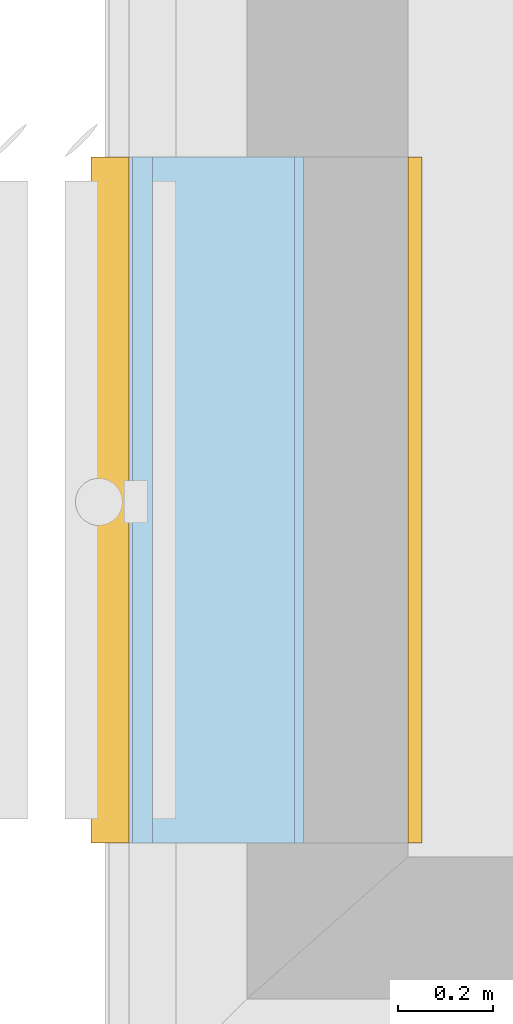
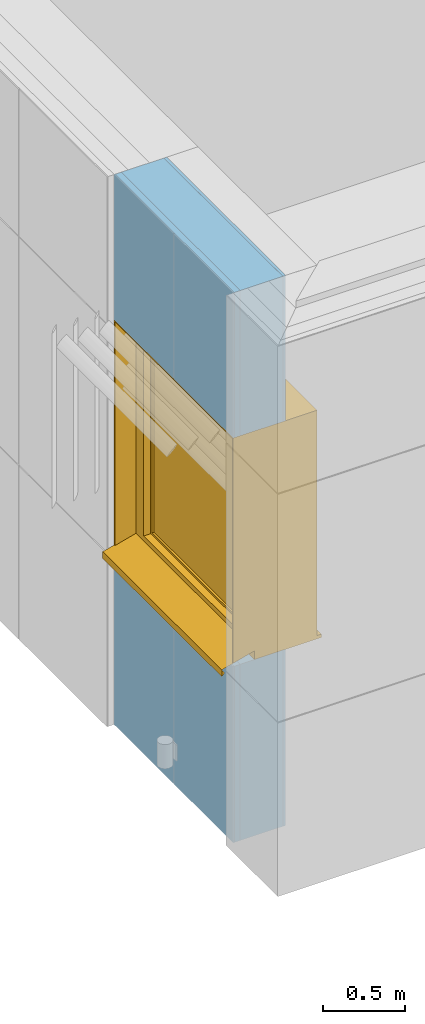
# One storey, part 118 of 418: 1 window, 2 openings, 1 element without a shape of its own, plus 4 elements that do not belong to this part.
"""IFC2X3 building model written with IfcOpenShell, lengths in millimetres."""

from ifc_helpers import new_model, entity, si_unit, converted_unit, derived_unit, money_unit, direction, frame, origin_with_axes, origin_2d_with_axis, place, context, subcontext, project, spatial, polyline, rectangle, outline, extrude, open_shell, faceted_brep, surface_model, material, type_object, element, fill, aggregate, save


model = new_model("IFC2X3")

# Units and contexts
model_context = context("Model", 3, precision=0.01, world=origin_with_axes(), true_north=direction((0.0, 1.0)))
body_context = subcontext(model_context, "Body", "Model", "MODEL_VIEW")
ifc_project = project(units=[si_unit("LENGTHUNIT", "METRE", prefix="MILLI"), si_unit("AREAUNIT", "SQUARE_METRE"), si_unit("VOLUMEUNIT", "CUBIC_METRE"), converted_unit("PLANEANGLEUNIT", "DEGREE", entity("IfcPlaneAngleMeasure", 0.0174532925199), si_unit("PLANEANGLEUNIT", "RADIAN"), dimensions=[0, 0, 0, 0, 0, 0, 0]), si_unit("SOLIDANGLEUNIT", "STERADIAN"), money_unit("EUR"), converted_unit("TIMEUNIT", "Year", entity("IfcTimeMeasure", 31556926.0), si_unit("TIMEUNIT", "SECOND"), dimensions=[0, 0, 1, 0, 0, 0, 0]), si_unit("MASSUNIT", "GRAM", prefix="KILO"), si_unit("THERMODYNAMICTEMPERATUREUNIT", "DEGREE_CELSIUS"), si_unit("LUMINOUSINTENSITYUNIT", "LUMEN"), si_unit("ENERGYUNIT", "JOULE", prefix="MEGA"), derived_unit("THERMALCONDUCTANCEUNIT", [(si_unit("POWERUNIT", "WATT"), 1), (si_unit("LENGTHUNIT", "METRE"), -1), (si_unit("THERMODYNAMICTEMPERATUREUNIT", "KELVIN"), -1)]), derived_unit("SPECIFICHEATCAPACITYUNIT", [(si_unit("ENERGYUNIT", "JOULE"), 1), (si_unit("MASSUNIT", "GRAM", prefix="KILO"), -1), (si_unit("THERMODYNAMICTEMPERATUREUNIT", "KELVIN"), -1)]), derived_unit("MASSDENSITYUNIT", [(si_unit("MASSUNIT", "GRAM", prefix="KILO"), 1), (si_unit("VOLUMEUNIT", "CUBIC_METRE"), -1)])], contexts=[model_context])

# Site, building, storey
site_placement = place(None, origin_with_axes())
site = spatial("IfcSite", under=ifc_project, at=site_placement, Name="Paldiski mnt 245/1, Tallinn, Harjumaa", CompositionType="COMPLEX")
building_placement = place(site_placement, origin_with_axes())
building = spatial("IfcBuilding", under=site, at=building_placement, Name="RKAS Hoone üldnimetus (kasutust iseloomustav) -> IFC Project Manager -> SOLIBRI", CompositionType="ELEMENT")
storey_placement = place(building_placement, origin_with_axes())
storey = spatial("IfcBuildingStorey", under=building, at=storey_placement, Name="Esimene korrus", CompositionType="ELEMENT", Elevation=0.0)

# Window
window_style = type_object("IfcWindowStyle", Name="Window 23", ConstructionType="NOTDEFINED", OperationType="SINGLE_PANEL", ParameterTakesPrecedence=False, Sizeable=False)
wall_placement = place(storey_placement, frame((-62610.0, 13579.8287244, 0.0), z_axis=(0.0, 0.0, 1.0), x_axis=(0.0, -1.0, 0.0)))
opening_1_placement = place(wall_placement, frame((725.0, 0.0, 1310.0), z_axis=(0.0, 0.0, 1.0), x_axis=(1.0, 0.0, 0.0)))
window_placement = place(opening_1_placement, frame((-725.0, 0.0, 0.0), z_axis=(0.0, 0.0, 1.0), x_axis=(1.0, 0.0, 0.0)))
window = element("IfcWindow", 1, at=window_placement, inside=storey, type_object=window_style, Name="A-06", ObjectType="WINDOW", OverallHeight=1700.0, OverallWidth=1450.0, context=body_context, shape_type="SurfaceModel", body=[
    surface_model("IfcShellBasedSurfaceModel", [(1450.0, -221.0, 75.0), (0.0, -221.0, 75.0), (0.0, -221.0, 65.0), (1450.0, -221.0, 65.0), (0.0, -450.0, 3.66666666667), (1450.0, -450.0, 3.66666666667), (0.0, -450.0, -46.3333333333), (1450.0, -450.0, -46.3333333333), (0.0, -430.0, -26.3333333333), (1450.0, -430.0, -26.3333333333)], [open_shell([[[0, 1, 2, 3]], [[3, 2, 4, 5]], [[5, 4, 6, 7]], [[7, 6, 8, 9]]])]),
    faceted_brep([(0.0, -135.0, 0.0), (0.0, -135.0, 25.0), (0.0, 0.0, 25.0), (0.0, 0.0, 0.0), (1450.0, -135.0, 0.0), (1450.0, -135.0, 25.0), (1450.0, 0.0, 25.0), (1450.0, 250.0, 25.0), (0.0, 250.0, 25.0), (0.0, 250.0, 0.0), (1450.0, 250.0, 0.0), (1450.0, 0.0, 0.0)], [[[0, 1, 2, 3]], [[4, 5, 1, 0]], [[1, 5, 6, 7, 8, 2]], [[3, 2, 8, 9]], [[0, 3, 9, 10, 11, 4]], [[11, 6, 5, 4]], [[10, 7, 6, 11]], [[9, 8, 7, 10]]]),
    faceted_brep([(1450.0, -135.0, 25.0), (1450.0, -135.0, 1700.0), (1424.0, -135.0, 1674.0), (1424.0, -135.0, 25.0), (1450.0, 0.0, 25.0), (1450.0, 0.0, 1700.0), (1424.0, 0.0, 1674.0), (1424.0, 0.0, 25.0)], [[[0, 1, 2, 3]], [[4, 5, 1, 0]], [[6, 2, 1, 5]], [[3, 2, 6, 7]], [[7, 4, 0, 3]], [[7, 6, 5, 4]]]),
    faceted_brep([(26.0, -135.0, 25.0), (26.0, -135.0, 1674.0), (0.0, -135.0, 1700.0), (0.0, -135.0, 25.0), (26.0, 0.0, 25.0), (26.0, 0.0, 1674.0), (0.0, 0.0, 1700.0), (0.0, 0.0, 25.0)], [[[0, 1, 2, 3]], [[4, 5, 1, 0]], [[6, 2, 1, 5]], [[3, 2, 6, 7]], [[7, 4, 0, 3]], [[7, 6, 5, 4]]]),
    faceted_brep([(1424.0, -135.0, 1674.0), (26.0, -135.0, 1674.0), (26.0, 0.0, 1674.0), (1424.0, 0.0, 1674.0), (1450.0, -135.0, 1700.0), (0.0, -135.0, 1700.0), (0.0, 0.0, 1700.0), (1450.0, 0.0, 1700.0)], [[[0, 1, 2, 3]], [[0, 4, 5, 1]], [[1, 5, 6, 2]], [[3, 2, 6, 7]], [[4, 0, 3, 7]], [[5, 4, 7, 6]]]),
    faceted_brep([(1450.0, 0.0, 25.0), (1450.0, 0.0, 1700.0), (1424.0, 0.0, 1674.0), (1424.0, 0.0, 25.0), (1450.0, 220.0, 25.0), (1450.0, 220.0, 1700.0), (1424.0, 220.0, 1674.0), (1424.0, 220.0, 25.0)], [[[0, 1, 2, 3]], [[4, 5, 1, 0]], [[5, 6, 2, 1]], [[3, 2, 6, 7]], [[7, 4, 0, 3]], [[7, 6, 5, 4]]]),
    faceted_brep([(26.0, 0.0, 25.0), (26.0, 0.0, 1674.0), (0.0, 0.0, 1700.0), (0.0, 0.0, 25.0), (26.0, 220.0, 25.0), (26.0, 220.0, 1674.0), (0.0, 220.0, 1700.0), (0.0, 220.0, 25.0)], [[[0, 1, 2, 3]], [[4, 5, 1, 0]], [[5, 6, 2, 1]], [[3, 2, 6, 7]], [[7, 4, 0, 3]], [[7, 6, 5, 4]]]),
    faceted_brep([(1450.0, 220.0, 1700.0), (1450.0, 0.0, 1700.0), (1424.0, 0.0, 1674.0), (1424.0, 220.0, 1674.0), (0.0, 220.0, 1700.0), (0.0, 0.0, 1700.0), (26.0, 0.0, 1674.0), (26.0, 220.0, 1674.0)], [[[0, 1, 2, 3]], [[4, 5, 1, 0]], [[1, 5, 6, 2]], [[3, 2, 6, 7]], [[0, 3, 7, 4]], [[7, 6, 5, 4]]]),
    faceted_brep([(1442.0, -370.0, 25.0931586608), (1442.0, -370.0, 1692.0), (1442.0, -220.0, 1692.0), (1442.0, -220.0, 75.0), (1442.0, -221.0, 75.0), (1442.0, -221.0, 65.0), (1450.0, -370.0, 25.0931586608), (1450.0, -370.0, 1700.0), (1450.0, -220.0, 1700.0), (1450.0, -220.0, 75.0), (1450.0, -221.0, 75.0), (1450.0, -221.0, 65.0)], [[[0, 1, 2, 3, 4, 5]], [[6, 7, 1, 0]], [[8, 2, 1, 7]], [[3, 2, 8, 9]], [[3, 9, 10, 4]], [[4, 10, 11, 5]], [[5, 11, 6, 0]], [[11, 10, 9, 8, 7, 6]]]),
    faceted_brep([(0.0, -370.0, 25.0931586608), (0.0, -370.0, 1700.0), (0.0, -220.0, 1700.0), (0.0, -220.0, 75.0), (0.0, -221.0, 75.0), (0.0, -221.0, 65.0), (8.0, -370.0, 25.0931586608), (8.0, -370.0, 1692.0), (8.0, -220.0, 1692.0), (8.0, -220.0, 75.0), (8.0, -221.0, 75.0), (8.0, -221.0, 65.0)], [[[0, 1, 2, 3, 4, 5]], [[6, 7, 1, 0]], [[8, 2, 1, 7]], [[3, 2, 8, 9]], [[3, 9, 10, 4]], [[4, 10, 11, 5]], [[5, 11, 6, 0]], [[11, 10, 9, 8, 7, 6]]]),
    faceted_brep([(1450.0, -220.0, 1700.0), (1450.0, -370.0, 1700.0), (1442.0, -370.0, 1692.0), (1442.0, -220.0, 1692.0), (0.0, -220.0, 1700.0), (0.0, -370.0, 1700.0), (8.0, -370.0, 1692.0), (8.0, -220.0, 1692.0)], [[[0, 1, 2, 3]], [[4, 5, 1, 0]], [[1, 5, 6, 2]], [[3, 2, 6, 7]], [[0, 3, 7, 4]], [[7, 6, 5, 4]]]),
    faceted_brep([(1350.0, -170.0, 1600.0), (1350.0, -220.0, 1600.0), (1450.0, -220.0, 1600.0), (1450.0, -170.0, 1600.0), (1350.0, -170.0, 100.0), (1350.0, -220.0, 100.0), (1450.0, -220.0, 100.0), (1450.0, -170.0, 100.0)], [[[0, 1, 2, 3]], [[4, 5, 1, 0]], [[2, 1, 5, 6]], [[3, 2, 6, 7]], [[4, 0, 3, 7]], [[7, 6, 5, 4]]]),
    faceted_brep([(100.0, -170.0, 100.0), (100.0, -220.0, 100.0), (0.0, -220.0, 100.0), (0.0, -170.0, 100.0), (100.0, -170.0, 1600.0), (100.0, -220.0, 1600.0), (0.0, -220.0, 1600.0), (0.0, -170.0, 1600.0)], [[[0, 1, 2, 3]], [[4, 5, 1, 0]], [[2, 1, 5, 6]], [[3, 2, 6, 7]], [[4, 0, 3, 7]], [[7, 6, 5, 4]]]),
    faceted_brep([(1350.0, -170.0, 100.0), (1350.0, -220.0, 100.0), (1450.0, -220.0, 100.0), (1450.0, -170.0, 100.0), (100.0, -170.0, 100.0), (100.0, -220.0, 100.0), (0.0, -220.0, 100.0), (0.0, -220.0, 0.0), (1450.0, -220.0, 0.0), (1450.0, -170.0, 0.0), (0.0, -170.0, 0.0), (0.0, -170.0, 100.0)], [[[0, 1, 2, 3]], [[4, 5, 1, 0]], [[2, 1, 5, 6, 7, 8]], [[3, 2, 8, 9]], [[4, 0, 3, 9, 10, 11]], [[11, 6, 5, 4]], [[10, 7, 6, 11]], [[9, 8, 7, 10]]]),
    faceted_brep([(100.0, -170.0, 1600.0), (100.0, -220.0, 1600.0), (0.0, -220.0, 1600.0), (0.0, -170.0, 1600.0), (1350.0, -170.0, 1600.0), (1350.0, -220.0, 1600.0), (1450.0, -220.0, 1600.0), (1450.0, -220.0, 1700.0), (0.0, -220.0, 1700.0), (0.0, -170.0, 1700.0), (1450.0, -170.0, 1700.0), (1450.0, -170.0, 1600.0)], [[[0, 1, 2, 3]], [[4, 5, 1, 0]], [[2, 1, 5, 6, 7, 8]], [[3, 2, 8, 9]], [[4, 0, 3, 9, 10, 11]], [[11, 6, 5, 4]], [[10, 7, 6, 11]], [[9, 8, 7, 10]]]),
    faceted_brep([(1385.0, -135.0, 100.0), (1385.0, -135.0, 1600.0), (1450.0, -135.0, 1600.0), (1450.0, -135.0, 100.0), (1385.0, -170.0, 1600.0), (1385.0, -170.0, 100.0), (1450.0, -170.0, 1600.0), (1450.0, -170.0, 100.0)], [[[0, 1, 2, 3]], [[4, 1, 0, 5]], [[1, 4, 6, 2]], [[2, 6, 7, 3]], [[5, 0, 3, 7]], [[4, 5, 7, 6]]]),
    faceted_brep([(65.0, -170.0, 1600.0), (65.0, -135.0, 1600.0), (0.0, -135.0, 1600.0), (0.0, -170.0, 1600.0), (65.0, -135.0, 100.0), (65.0, -170.0, 100.0), (0.0, -135.0, 100.0), (0.0, -170.0, 100.0)], [[[0, 1, 2, 3]], [[4, 1, 0, 5]], [[1, 4, 6, 2]], [[6, 7, 3, 2]], [[5, 0, 3, 7]], [[4, 5, 7, 6]]]),
    faceted_brep([(65.0, -170.0, 100.0), (65.0, -135.0, 100.0), (0.0, -135.0, 100.0), (0.0, -170.0, 100.0), (65.0, -135.0, 65.0), (65.0, -170.0, 65.0), (1385.0, -135.0, 65.0), (1385.0, -135.0, 100.0), (1450.0, -135.0, 100.0), (1450.0, -135.0, 0.0), (0.0, -135.0, 0.0), (0.0, -170.0, 0.0), (1450.0, -170.0, 0.0), (1450.0, -170.0, 100.0), (1385.0, -170.0, 100.0), (1385.0, -170.0, 65.0)], [[[0, 1, 2, 3]], [[4, 1, 0, 5]], [[6, 7, 8, 9, 10, 2, 1, 4]], [[10, 11, 3, 2]], [[5, 0, 3, 11, 12, 13, 14, 15]], [[6, 4, 5, 15]], [[14, 7, 6, 15]], [[7, 14, 13, 8]], [[8, 13, 12, 9]], [[9, 12, 11, 10]]]),
    faceted_brep([(1385.0, -135.0, 1600.0), (1385.0, -135.0, 1635.0), (65.0, -135.0, 1635.0), (65.0, -135.0, 1600.0), (0.0, -135.0, 1600.0), (0.0, -135.0, 1700.0), (1450.0, -135.0, 1700.0), (1450.0, -135.0, 1600.0), (1385.0, -170.0, 1600.0), (1385.0, -170.0, 1635.0), (65.0, -170.0, 1635.0), (65.0, -170.0, 1600.0), (0.0, -170.0, 1600.0), (0.0, -170.0, 1700.0), (1450.0, -170.0, 1700.0), (1450.0, -170.0, 1600.0)], [[[0, 1, 2, 3, 4, 5, 6, 7]], [[1, 0, 8, 9]], [[2, 1, 9, 10]], [[3, 2, 10, 11]], [[3, 11, 12, 4]], [[4, 12, 13, 5]], [[5, 13, 14, 6]], [[6, 14, 15, 7]], [[8, 0, 7, 15]], [[9, 8, 15, 14, 13, 12, 11, 10]]]),
    faceted_brep([(74.0, -120.0, 877.0), (75.3397459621, -120.0, 882.0), (75.3397459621, -108.0, 882.0), (74.0, -108.0, 877.0), (74.0, -120.0, 823.0), (75.3397459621, -120.0, 818.0), (79.0, -120.0, 814.339745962), (84.0, -120.0, 813.0), (96.0, -120.0, 813.0), (101.0, -120.0, 814.339745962), (104.660254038, -120.0, 818.0), (106.0, -120.0, 823.0), (106.0, -120.0, 877.0), (104.660254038, -120.0, 882.0), (101.0, -120.0, 885.660254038), (96.0, -120.0, 887.0), (84.0, -120.0, 887.0), (79.0, -120.0, 885.660254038), (79.0, -108.0, 885.660254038), (84.0, -108.0, 887.0), (96.0, -108.0, 887.0), (101.0, -108.0, 885.660254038), (104.660254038, -108.0, 882.0), (106.0, -108.0, 877.0), (106.0, -108.0, 823.0), (104.660254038, -108.0, 818.0), (101.0, -108.0, 814.339745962), (96.0, -108.0, 813.0), (84.0, -108.0, 813.0), (79.0, -108.0, 814.339745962), (75.3397459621, -108.0, 818.0), (74.0, -108.0, 823.0)], [[[0, 1, 2, 3]], [[0, 4, 5, 6, 7, 8, 9, 10, 11, 12, 13, 14, 15, 16, 17, 1]], [[1, 17, 18, 2]], [[3, 2, 18, 19, 20, 21, 22, 23, 24, 25, 26, 27, 28, 29, 30, 31]], [[4, 0, 3, 31]], [[5, 4, 31, 30]], [[6, 5, 30, 29]], [[7, 6, 29, 28]], [[8, 7, 28, 27]], [[9, 8, 27, 26]], [[10, 9, 26, 25]], [[11, 10, 25, 24]], [[12, 11, 24, 23]], [[13, 12, 23, 22]], [[14, 13, 22, 21]], [[15, 14, 21, 20]], [[16, 15, 20, 19]], [[17, 16, 19, 18]]]),
    faceted_brep([(90.0, -108.0, 863.5), (96.75, -108.0, 861.691342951), (96.75, -84.0, 861.691342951), (90.0, -84.0, 863.5), (83.25, -108.0, 861.691342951), (78.3086570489, -108.0, 856.75), (76.5, -108.0, 850.0), (78.3086570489, -108.0, 843.25), (83.25, -108.0, 838.308657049), (90.0, -108.0, 836.5), (96.75, -108.0, 838.308657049), (101.691342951, -108.0, 843.25), (103.5, -108.0, 850.0), (101.691342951, -108.0, 856.75), (101.691342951, -84.0, 856.75), (103.5, -84.0, 850.0), (101.691342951, -84.0, 843.25), (96.75, -84.0, 838.308657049), (90.0, -84.0, 836.5), (83.25, -84.0, 838.308657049), (78.3086570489, -84.0, 843.25), (76.5, -84.0, 850.0), (78.3086570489, -84.0, 856.75), (83.25, -84.0, 861.691342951)], [[[0, 1, 2, 3]], [[0, 4, 5, 6, 7, 8, 9, 10, 11, 12, 13, 1]], [[1, 13, 14, 2]], [[3, 2, 14, 15, 16, 17, 18, 19, 20, 21, 22, 23]], [[4, 0, 3, 23]], [[5, 4, 23, 22]], [[6, 5, 22, 21]], [[7, 6, 21, 20]], [[8, 7, 20, 19]], [[9, 8, 19, 18]], [[10, 9, 18, 17]], [[11, 10, 17, 16]], [[12, 11, 16, 15]], [[13, 12, 15, 14]]]),
    faceted_brep([(78.5, -84.0, 743.0), (90.0, -84.0, 740.0), (101.5, -84.0, 743.0), (103.5, -84.0, 746.0), (103.5, -84.0, 850.0), (101.691342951, -84.0, 856.75), (96.75, -84.0, 861.691342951), (90.0, -84.0, 863.5), (83.25, -84.0, 861.691342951), (78.3086570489, -84.0, 856.75), (76.5, -84.0, 850.0), (76.5, -84.0, 746.0), (78.4999999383, -76.0, 743.000000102), (89.9999999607, -76.0, 739.99999961), (101.499999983, -76.0, 743.000000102), (103.500000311, -76.0, 745.999999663), (103.500000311, -76.0, 849.999999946), (101.691343, -76.0, 856.749999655), (96.7499996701, -76.0, 861.691342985), (89.9999999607, -76.0, 863.500000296), (83.2500002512, -76.0, 861.691342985), (78.3086569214, -76.0, 856.749999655), (76.4999996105, -76.0, 849.999999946), (76.4999996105, -76.0, 745.999999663), (80.3625374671, -73.0000004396, 745.614519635), (89.9999999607, -73.0000004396, 743.100398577), (99.6374624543, -73.0000004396, 745.614519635), (100.50000075, -73.0000004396, 746.908326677), (100.50000075, -73.0000004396, 849.605042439), (99.0016170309, -73.0000004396, 855.197085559), (95.1970855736, -73.0000004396, 859.001617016), (89.9999999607, -73.0000004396, 860.394172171), (84.8029143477, -73.0000004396, 859.001617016), (80.9983828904, -73.0000004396, 855.197085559), (79.4999991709, -73.0000004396, 849.605042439), (79.4999991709, -73.0000004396, 746.908326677)], [[[0, 1, 2, 3, 4, 5, 6, 7, 8, 9, 10, 11]], [[1, 0, 12, 13]], [[2, 1, 13, 14]], [[3, 2, 14, 15]], [[4, 3, 15, 16]], [[5, 4, 16, 17]], [[6, 5, 17, 18]], [[7, 6, 18, 19]], [[8, 7, 19, 20]], [[9, 8, 20, 21]], [[10, 9, 21, 22]], [[11, 10, 22, 23]], [[0, 11, 23, 12]], [[13, 12, 24, 25]], [[14, 13, 25, 26]], [[15, 14, 26, 27]], [[16, 15, 27, 28]], [[17, 16, 28, 29]], [[18, 17, 29, 30]], [[19, 18, 30, 31]], [[20, 19, 31, 32]], [[21, 20, 32, 33]], [[22, 21, 33, 34]], [[23, 22, 34, 35]], [[12, 23, 35, 24]], [[26, 25, 24, 35, 34, 33, 32, 31, 30, 29, 28, 27]]]),
    faceted_brep([(1335.0, -170.0, 1585.0), (1385.0, -170.0, 1585.0), (1385.0, -155.0, 1585.0), (1335.0, -155.0, 1585.0), (1335.0, -170.0, 115.0), (1385.0, -170.0, 115.0), (1385.0, -155.0, 115.0), (1335.0, -155.0, 115.0)], [[[0, 1, 2, 3]], [[0, 4, 5, 1]], [[1, 5, 6, 2]], [[3, 2, 6, 7]], [[4, 0, 3, 7]], [[5, 4, 7, 6]]]),
    faceted_brep([(115.0, -170.0, 115.0), (65.0, -170.0, 115.0), (65.0, -155.0, 115.0), (115.0, -155.0, 115.0), (115.0, -170.0, 1585.0), (65.0, -170.0, 1585.0), (65.0, -155.0, 1585.0), (115.0, -155.0, 1585.0)], [[[0, 1, 2, 3]], [[0, 4, 5, 1]], [[1, 5, 6, 2]], [[3, 2, 6, 7]], [[4, 0, 3, 7]], [[5, 4, 7, 6]]]),
    faceted_brep([(65.0, -170.0, 65.0), (65.0, -170.0, 115.0), (65.0, -155.0, 115.0), (65.0, -155.0, 65.0), (1385.0, -170.0, 65.0), (1385.0, -170.0, 115.0), (1335.0, -170.0, 115.0), (115.0, -170.0, 115.0), (115.0, -155.0, 115.0), (1335.0, -155.0, 115.0), (1385.0, -155.0, 115.0), (1385.0, -155.0, 65.0)], [[[0, 1, 2, 3]], [[0, 4, 5, 6, 7, 1]], [[1, 7, 8, 2]], [[3, 2, 8, 9, 10, 11]], [[4, 0, 3, 11]], [[5, 4, 11, 10]], [[6, 5, 10, 9]], [[7, 6, 9, 8]]]),
    faceted_brep([(1385.0, -170.0, 1635.0), (1385.0, -170.0, 1585.0), (1385.0, -155.0, 1585.0), (1385.0, -155.0, 1635.0), (65.0, -170.0, 1635.0), (65.0, -170.0, 1585.0), (115.0, -170.0, 1585.0), (1335.0, -170.0, 1585.0), (1335.0, -155.0, 1585.0), (115.0, -155.0, 1585.0), (65.0, -155.0, 1585.0), (65.0, -155.0, 1635.0)], [[[0, 1, 2, 3]], [[0, 4, 5, 6, 7, 1]], [[1, 7, 8, 2]], [[3, 2, 8, 9, 10, 11]], [[4, 0, 3, 11]], [[5, 4, 11, 10]], [[6, 5, 10, 9]], [[7, 6, 9, 8]]]),
    faceted_brep([(1335.0, -155.0, 1585.0), (1385.0, -155.0, 1585.0), (1385.0, -120.0, 1585.0), (1335.0, -120.0, 1585.0), (1335.0, -155.0, 115.0), (1385.0, -155.0, 115.0), (1385.0, -120.0, 115.0), (1335.0, -120.0, 115.0)], [[[0, 1, 2, 3]], [[0, 4, 5, 1]], [[1, 5, 6, 2]], [[3, 2, 6, 7]], [[4, 0, 3, 7]], [[5, 4, 7, 6]]]),
    faceted_brep([(115.0, -155.0, 115.0), (65.0, -155.0, 115.0), (65.0, -120.0, 115.0), (115.0, -120.0, 115.0), (115.0, -155.0, 1585.0), (65.0, -155.0, 1585.0), (65.0, -120.0, 1585.0), (115.0, -120.0, 1585.0)], [[[0, 1, 2, 3]], [[0, 4, 5, 1]], [[1, 5, 6, 2]], [[3, 2, 6, 7]], [[4, 0, 3, 7]], [[5, 4, 7, 6]]]),
    faceted_brep([(65.0, -155.0, 65.0), (65.0, -155.0, 115.0), (65.0, -120.0, 115.0), (65.0, -120.0, 65.0), (1385.0, -155.0, 65.0), (1385.0, -155.0, 115.0), (1335.0, -155.0, 115.0), (115.0, -155.0, 115.0), (115.0, -120.0, 115.0), (1335.0, -120.0, 115.0), (1385.0, -120.0, 115.0), (1385.0, -120.0, 65.0)], [[[0, 1, 2, 3]], [[0, 4, 5, 6, 7, 1]], [[1, 7, 8, 2]], [[3, 2, 8, 9, 10, 11]], [[4, 0, 3, 11]], [[5, 4, 11, 10]], [[6, 5, 10, 9]], [[7, 6, 9, 8]]]),
    faceted_brep([(1385.0, -155.0, 1635.0), (1385.0, -155.0, 1585.0), (1385.0, -120.0, 1585.0), (1385.0, -120.0, 1635.0), (65.0, -155.0, 1635.0), (65.0, -155.0, 1585.0), (115.0, -155.0, 1585.0), (1335.0, -155.0, 1585.0), (1335.0, -120.0, 1585.0), (115.0, -120.0, 1585.0), (65.0, -120.0, 1585.0), (65.0, -120.0, 1635.0)], [[[0, 1, 2, 3]], [[0, 4, 5, 6, 7, 1]], [[1, 7, 8, 2]], [[3, 2, 8, 9, 10, 11]], [[4, 0, 3, 11]], [[5, 4, 11, 10]], [[6, 5, 10, 9]], [[7, 6, 9, 8]]]),
    surface_model("IfcShellBasedSurfaceModel", [(1335.0, -155.0, 115.0), (1335.0, -155.0, 1585.0), (115.0, -155.0, 1585.0), (115.0, -155.0, 115.0)], [open_shell([[[0, 1, 2, 3]]])]),
    surface_model("IfcShellBasedSurfaceModel", [(1335.0, -135.0, 115.0), (115.0, -135.0, 115.0), (115.0, -135.0, 1585.0), (1335.0, -135.0, 1585.0)], [open_shell([[[0, 1, 2, 3]]])]),
])

# Wall, opening
wall_type = type_object("IfcWallType", Name="VS-05D_uued_kihid 370", PredefinedType="NOTDEFINED")
wall = element("IfcWall", 2, at=wall_placement, inside=storey, type_object=wall_type, Name="VS-05")
opening_1 = element("IfcOpeningElement", 3, at=opening_1_placement, cuts=wall, Name="A-06", context=body_context, shape_type="SweptSolid", body=[
    extrude(rectangle(XDim=1450.0, YDim=1700.0, at=origin_2d_with_axis()), frame((0.0, -220.0, 850.0), z_axis=(0.0, 1.0, 0.0), x_axis=(-1.0, 0.0, 0.0)), (0.0, 0.0, 1.0), 590.0),
    extrude(rectangle(XDim=1450.0, YDim=1700.0, at=origin_2d_with_axis()), frame((0.0, -220.0, 850.0), z_axis=(0.0, -1.0, 0.0), x_axis=(-1.0, 0.0, 0.0)), (0.0, 0.0, 1.0), 520.0),
    extrude(rectangle(XDim=1450.0, YDim=1700.0, at=origin_2d_with_axis()), frame((0.0, 0.0, 850.0), z_axis=(0.0, 1.0, 0.0), x_axis=(-1.0, 0.0, 0.0)), (0.0, 0.0, 1.0), 520.0),
])

fill(opening_1, window)

# Opening
opening_2_placement = place(wall_placement, frame((725.0, 0.0, 0.0), z_axis=(0.0, 0.0, 1.0), x_axis=(1.0, 0.0, 0.0)))
element("IfcOpeningElement", 4, at=opening_2_placement, cuts=wall, Name="Cembrit fassaadiplaadi vuuk", context=body_context, shape_type="SweptSolid", body=[
    extrude(outline(polyline([(-4.00000000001, 0.0), (3.99999999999, 0.0), (3.99999999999, 4090.0), (-4.00000000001, 4090.0), (-4.00000000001, 0.0)])), frame((0.0, -362.0, 0.0), z_axis=(0.0, -1.0, 0.0), x_axis=(1.0, 0.0, 0.0)), (0.0, 0.0, 1.0), 378.0),
])

# Building element part
ifc_material_1 = material(Name="Cembrit_C060")
building_element_part_1_placement = place(wall_placement, origin_with_axes())
building_element_part_1 = element("IfcBuildingElementPart", 5, at=building_element_part_1_placement, material=ifc_material_1, Name="Cembrit_C060", context=body_context, shape_type="SweptSolid", body=[
    extrude(outline(polyline([(0.0, -370.0), (1450.0, -370.0), (1450.0, -362.0), (0.0, -362.0), (0.0, -370.0)])), origin_with_axes(), (0.0, 0.0, 1.0), 4090.0),
])

ifc_material_2 = material(Name="VKR-06_Õhkvahe")
building_element_part_2_placement = place(wall_placement, origin_with_axes())
building_element_part_2 = element("IfcBuildingElementPart", 6, at=building_element_part_2_placement, material=ifc_material_2, Name="VKR-06_Õhkvahe", context=body_context, shape_type="SweptSolid", body=[
    extrude(outline(polyline([(0.0, -362.0), (1450.0, -362.0), (1450.0, -320.0), (0.0, -320.0), (0.0, -362.0)])), origin_with_axes(), (0.0, 0.0, 1.0), 4090.0),
])

ifc_material_3 = material(Name="Kingspan Kooltherm")
building_element_part_3_placement = place(wall_placement, origin_with_axes())
building_element_part_3 = element("IfcBuildingElementPart", 7, at=building_element_part_3_placement, material=ifc_material_3, Name="Kingspan Kooltherm", context=body_context, shape_type="SweptSolid", body=[
    extrude(outline(polyline([(0.0, -320.0), (1450.0, -320.0), (1450.0, -20.0), (0.0, -20.0), (0.0, -320.0)])), origin_with_axes(), (0.0, 0.0, 1.0), 4090.0),
])

ifc_material_4 = material(Name="Tasanduskrohv")
building_element_part_4_placement = place(wall_placement, origin_with_axes())
building_element_part_4 = element("IfcBuildingElementPart", 8, at=building_element_part_4_placement, material=ifc_material_4, Name="Tasanduskrohv", context=body_context, shape_type="SweptSolid", body=[
    extrude(outline(polyline([(0.0, -20.0), (1450.0, -20.0), (1450.0, 0.0), (0.0, 0.0), (0.0, -20.0)])), origin_with_axes(), (0.0, 0.0, 1.0), 4090.0),
])

aggregate(wall, [building_element_part_1, building_element_part_2, building_element_part_3, building_element_part_4])

save(model, "model.ifc")
